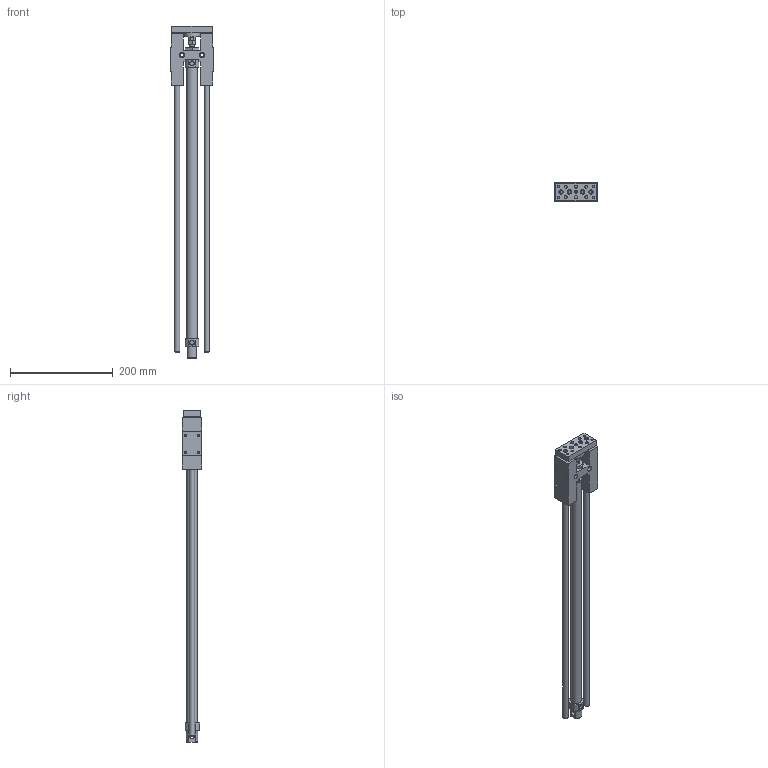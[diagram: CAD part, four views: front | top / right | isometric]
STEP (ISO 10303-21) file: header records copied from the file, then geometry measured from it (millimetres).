
FILE_DESCRIPTION((''),'2;1');
FILE_NAME('I:\3D電子目錄\氣缸\GHB(U)\GHB(U)\GHB(U)20\GHB(U)20x500.stp','2007-10-22T16:16:28',('Administrator'),(''),'Autodesk Inventor 11','Autodesk Inventor 11','');
FILE_SCHEMA(('AUTOMOTIVE_DESIGN { 1 0 10303 214 1 1 1 1 }'));
Length unit declared in the file: millimetre
Products named in the file (1): GHB(U)20
Bounding box: 82 x 38 x 646 mm (x, y, z)
Volume: 535060.7 mm3; surface area: 120792.5 mm2
Topology: 1 solids, 1 shells, 241 faces, 563 edges, 363 vertices
Faces by surface type: plane 132, bspline 40, cylinder 38, cone 31
Full cylindrical faces by diameter (mm): 4.917 x4, 5 x1, 6 x3, 6.6 x1, 7.5 x4, 8 x3, 8.5 x6, 10 x2, 13 x2, 21.2 x1, 33 x1
Entity records: 6788 total; most frequent: CARTESIAN_POINT 1686, DIRECTION 1006, ORIENTED_EDGE 964, EDGE_CURVE 482, EDGE_LOOP 372, AXIS2_PLACEMENT_3D 366, VERTEX_POINT 348, VECTOR 274
